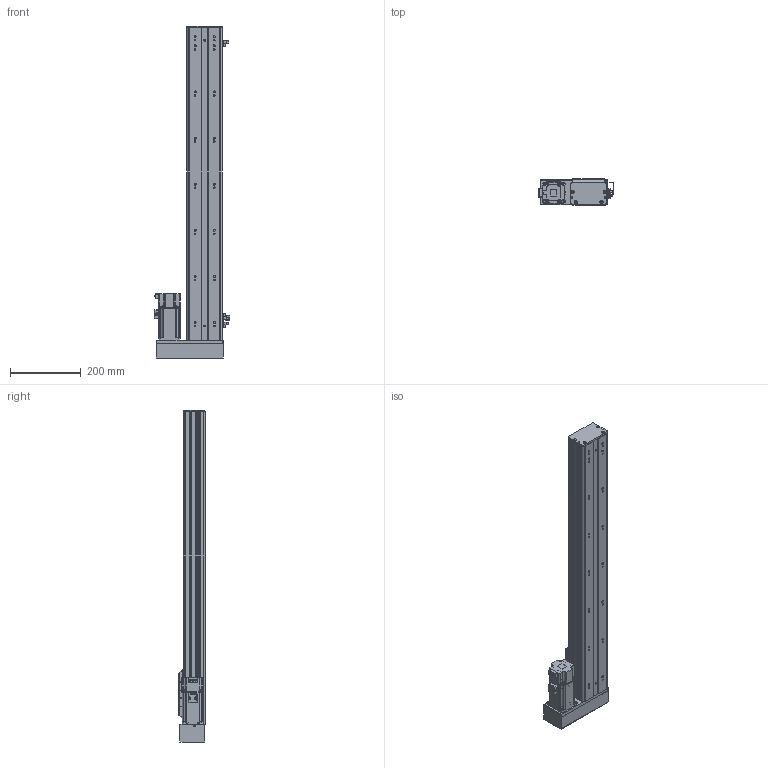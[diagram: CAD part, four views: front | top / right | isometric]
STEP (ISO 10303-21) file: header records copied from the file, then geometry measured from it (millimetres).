
FILE_DESCRIPTION (( 'STEP AP203' ), '1' );
FILE_NAME ('BOSW100-700-1610-1P-RM-M400W-O-S3（方程式2016）.step', '2020-10-10T07:19:47', ( '' ), ( '' ), 'SwSTEP 2.0', 'SolidWorks 2016', '' );
FILE_SCHEMA (( 'CONFIG_CONTROL_DESIGN' ));
Length unit declared in the file: millimetre
Products named in the file (14): 新结构AIMSW-100-1P-宽&高轨共用-滑动座上组件; BOSW&TW-100-俋离覜茼え; boS-100-LM&RM-三菱M400W马达板-宽轨; BOSW100-700-1610-1P-RM-M400W-O-S3（方程式2016）; BOSW&TW-100-詩湍揤沭(陔賦凳); BOSW-100-1P-DM-宽轨-侧板-700客户图纸; 俋境嫖覜嘐隅啣; AIMS(W)-100-LM&RM-肮祭謫欶; BOSW-100-綴裔啣; S400W(SMA-L040); BOSW-100-1P-DM-宽轨-钢带-700客户图纸; BOSW-100-1P-DM-700諦誧芞; 放大器内置U型微型光电传感器PM-L65; BOSW&TW-100-1P-賑雄釱欶
Assembly tree (19 placements, depth 2):
  BOSW100-700-1610-1P-RM-M400W-O-S3（方程式2016）
    BOSW-100-1P-DM-700諦誧芞
    BOSW-100-綴裔啣
    新结构AIMSW-100-1P-宽&高轨共用-滑动座上组件
    S400W(SMA-L040)
    BOSW&TW-100-詩湍揤沭(陔賦凳)  x2
    BOSW&TW-100-1P-賑雄釱欶
    BOSW-100-1P-DM-宽轨-侧板-700客户图纸  x2
    BOSW-100-1P-DM-宽轨-钢带-700客户图纸
    AIMS(W)-100-LM&RM-肮祭謫欶
    boS-100-LM&RM-三菱M400W马达板-宽轨
    俋境嫖覜嘐隅啣  x3
    放大器内置U型微型光电传感器PM-L65  x3
    BOSW&TW-100-俋离覜茼え
Bounding box: 213.4 x 75 x 936 mm (x, y, z)
Volume: 2102633.2 mm3; surface area: 989985.7 mm2
Topology: 19 solids, 20 shells, 2549 faces, 6735 edges, 4299 vertices
Faces by surface type: plane 1245, cylinder 818, bspline 271, cone 167, torus 36, sphere 12
Entity records: 70148 total; most frequent: CARTESIAN_POINT 20968, ORIENTED_EDGE 10010, DIRECTION 9705, EDGE_CURVE 5005, AXIS2_PLACEMENT_3D 3449, VERTEX_POINT 3201, LINE 2807, VECTOR 2807
